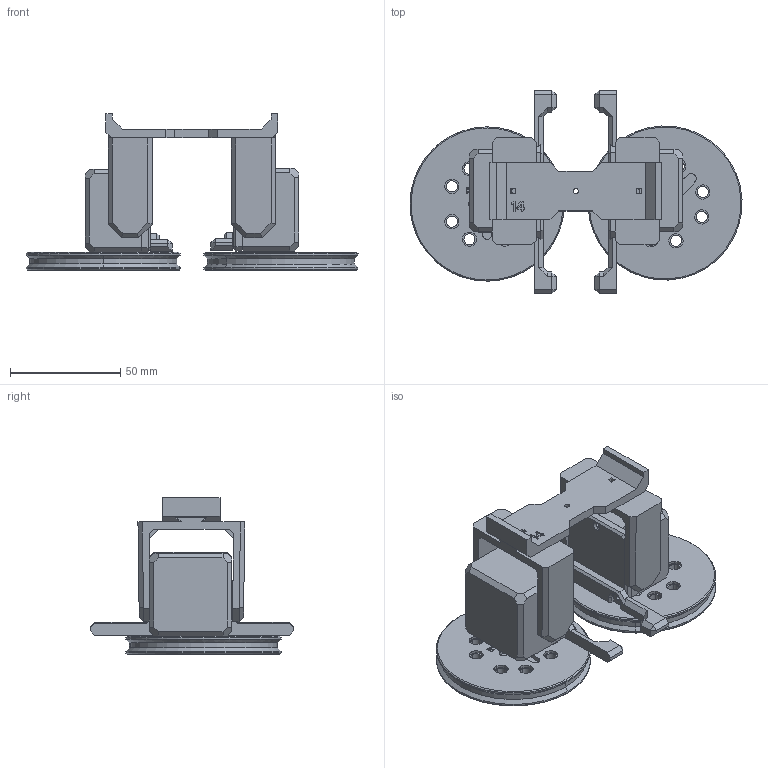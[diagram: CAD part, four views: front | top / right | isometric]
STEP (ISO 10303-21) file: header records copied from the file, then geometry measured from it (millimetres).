
FILE_DESCRIPTION(/* description */ ('STEP AP242','CAx-IF Rec.Pracs.---Representation and Presentation of Product Manufacturing Information (PMI)---4.0---2014-10-13','CAx-IF Rec.Pracs.---3D Tessellated Geometry---0.4---2014-09-14','2;1'),/* implementation_level */ '2;1');
FILE_NAME(/* name */ '689332b28283fb060a9c03cf',/* time_stamp */ '2025-08-06T10:47:16Z',/* author */ (''),/* organization */ (''),/* preprocessor_version */ 'ST-DEVELOPER v20',/* originating_system */ 'ONSHAPE BY PTC INC, 1.201',/* authorisation */ ' ');
FILE_SCHEMA (('AP242_MANAGED_MODEL_BASED_3D_ENGINEERING_MIM_LF { 1 0 10303 442 1 1 4 }'));
Length unit declared in the file: metre
Products named in the file (12): FULL assembly; Servo lid; Servo case R; Servo coverL; Balance; Leg; Hips; Wheel big
Assembly tree (11 placements, depth 2):
  FULL assembly
    Servo lid
    Servo case R
    Servo coverL
    Balance
    Leg
    Servo lid
    Hips
    Leg
    Wheel big
    Wheel big
    Balance
Bounding box: 150.69 x 92.56 x 71.07 mm (x, y, z)
Volume: 132702.6 mm3; surface area: 71660.2 mm2
Topology: 11 solids, 11 shells, 1208 faces, 3168 edges, 2046 vertices
Faces by surface type: plane 789, cylinder 235, bspline 92, cone 85, sphere 7
Full cylindrical faces by diameter (mm): 2 x3
Entity records: 37611 total; most frequent: CARTESIAN_POINT 7807, ORIENTED_EDGE 6314, DIRECTION 5695, EDGE_CURVE 3157, LINE 2353, VECTOR 2353, VERTEX_POINT 2044, AXIS2_PLACEMENT_3D 1671
